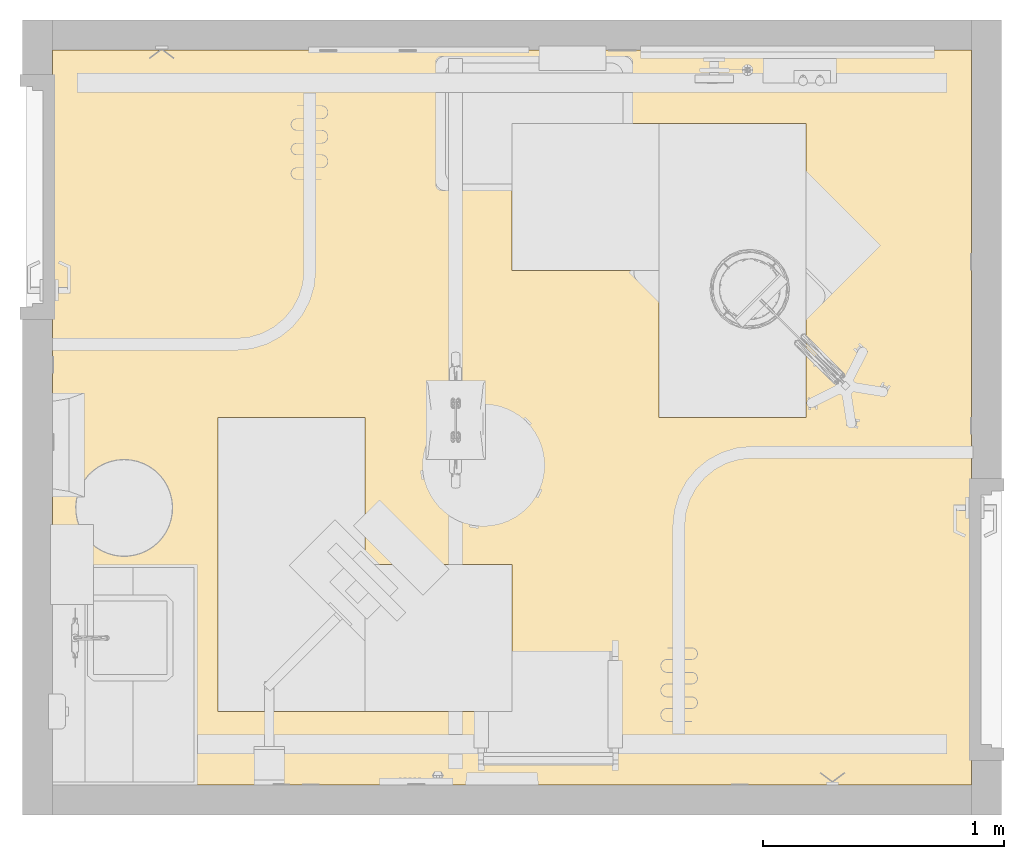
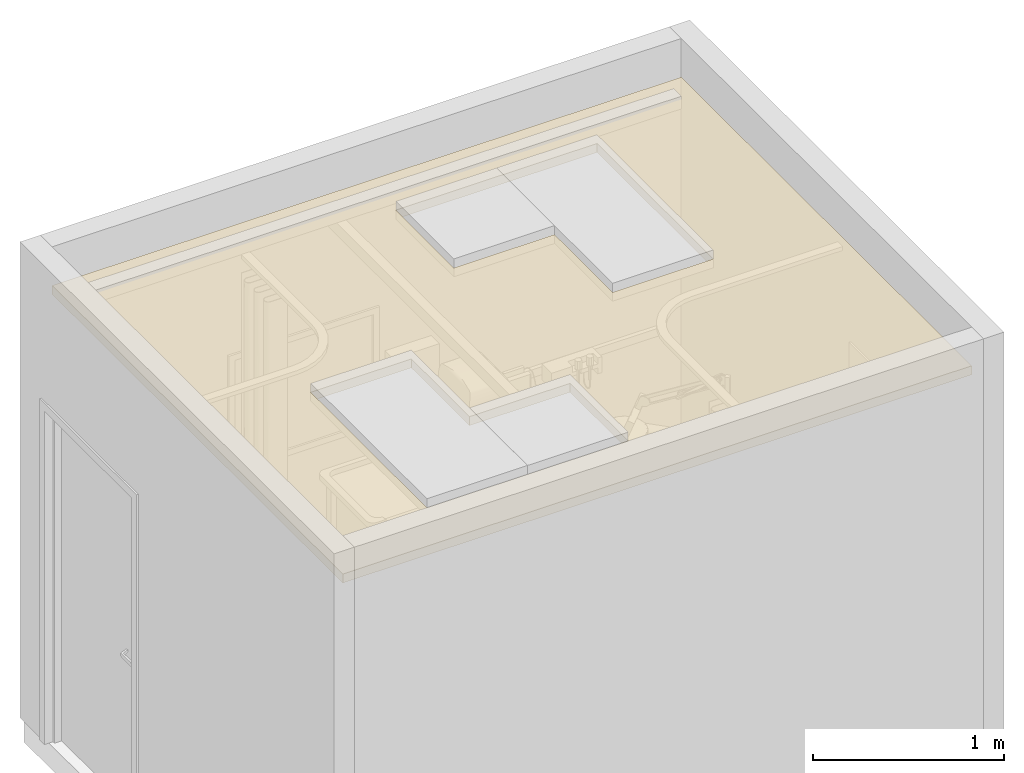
# One storey, part 4 of 8: 1 covering.
"""IFC2X3 building model written with IfcOpenShell, lengths in feet."""

from ifc_helpers import new_model, entity, si_unit, converted_unit, derived_unit, direction, frame, origin, place, context, subcontext, project, spatial, polyline, outline, extrude, material, layer, layer_set, layer_usage, element, save


model = new_model("IFC2X3")

# Units and contexts
model_context = context("Model", 3, precision=0.0001, world=origin(), true_north=direction((6.12303176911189e-17, 1.0)))
body_context = subcontext(model_context, "Body", "Model", "MODEL_VIEW")
ifc_project = project(units=[converted_unit("LENGTHUNIT", "FOOT", entity("IfcRatioMeasure", 0.3048), si_unit("LENGTHUNIT", "METRE"), dimensions=[1, 0, 0, 0, 0, 0, 0]), converted_unit("AREAUNIT", "SQUARE FOOT", entity("IfcRatioMeasure", 0.09290304), si_unit("AREAUNIT", "SQUARE_METRE"), dimensions=[2, 0, 0, 0, 0, 0, 0]), converted_unit("VOLUMEUNIT", "CUBIC FOOT", entity("IfcRatioMeasure", 0.028316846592), si_unit("VOLUMEUNIT", "CUBIC_METRE"), dimensions=[3, 0, 0, 0, 0, 0, 0]), converted_unit("PLANEANGLEUNIT", "DEGREE", entity("IfcRatioMeasure", 0.0174532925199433), si_unit("PLANEANGLEUNIT", "RADIAN"), dimensions=[0, 0, 0, 0, 0, 0, 0]), si_unit("MASSUNIT", "GRAM", prefix="KILO"), derived_unit("MASSDENSITYUNIT", [(si_unit("MASSUNIT", "GRAM", prefix="KILO"), 1), (si_unit("LENGTHUNIT", "METRE"), -3)]), si_unit("TIMEUNIT", "SECOND"), si_unit("FREQUENCYUNIT", "HERTZ"), si_unit("THERMODYNAMICTEMPERATUREUNIT", "DEGREE_CELSIUS"), derived_unit("THERMALTRANSMITTANCEUNIT", [(si_unit("MASSUNIT", "GRAM", prefix="KILO"), 1), (si_unit("THERMODYNAMICTEMPERATUREUNIT", "KELVIN"), -1), (si_unit("TIMEUNIT", "SECOND"), -3)]), derived_unit("VOLUMETRICFLOWRATEUNIT", [(si_unit("LENGTHUNIT", "METRE"), 3), (si_unit("TIMEUNIT", "SECOND"), -1)]), si_unit("ELECTRICCURRENTUNIT", "AMPERE"), si_unit("ELECTRICVOLTAGEUNIT", "VOLT"), si_unit("POWERUNIT", "WATT"), si_unit("FORCEUNIT", "NEWTON"), si_unit("ILLUMINANCEUNIT", "LUX"), si_unit("LUMINOUSFLUXUNIT", "LUMEN"), si_unit("LUMINOUSINTENSITYUNIT", "CANDELA"), derived_unit("USERDEFINED", [(si_unit("MASSUNIT", "GRAM", prefix="KILO"), -1), (si_unit("LENGTHUNIT", "METRE"), -2), (si_unit("TIMEUNIT", "SECOND"), 3), (si_unit("LUMINOUSFLUXUNIT", "LUMEN"), 1)]), derived_unit("LINEARVELOCITYUNIT", [(si_unit("LENGTHUNIT", "METRE"), 1), (si_unit("TIMEUNIT", "SECOND"), -1)]), si_unit("PRESSUREUNIT", "PASCAL"), derived_unit("USERDEFINED", [(si_unit("LENGTHUNIT", "METRE"), -2), (si_unit("MASSUNIT", "GRAM", prefix="KILO"), 1), (si_unit("TIMEUNIT", "SECOND"), -2)])], contexts=[model_context])

# Site, building, storey
site_placement = place(None, origin())
site = spatial("IfcSite", under=ifc_project, at=site_placement, Name="Default", CompositionType="ELEMENT")
building_placement = place(site_placement, origin())
building = spatial("IfcBuilding", under=site, at=building_placement, Name="OUTPATIENT / PACT CLINIC (Ch. 265)", CompositionType="ELEMENT")
storey_placement = place(building_placement, origin())
storey = spatial("IfcBuildingStorey", under=building, at=storey_placement, Name="DATUM", CompositionType="ELEMENT", Elevation=0.0)

# Covering
ifc_material_1 = material(Name="<Unnamed>")
ifc_layer_1 = layer(ifc_material_1, 0.135416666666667)
ifc_material_2 = material(Name="Acoustic Ceiling Tile 24 x 24")
ifc_layer_2 = layer(ifc_material_2, 0.0520833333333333)
ifc_layer_set = layer_set([ifc_layer_1, ifc_layer_2], Name="Compound Ceiling:2' x 2' ACT System")
ifc_layer_usage = layer_usage(ifc_layer_set, "AXIS3", "POSITIVE", 0.0)
covering_placement = place(storey_placement, origin())
element("IfcCovering", 1, at=covering_placement, inside=storey, material=ifc_layer_usage, Name="Compound Ceiling:2' x 2' ACT System", ObjectType="Compound Ceiling:2' x 2' ACT System", PredefinedType="CEILING", context=body_context, shape_type="SweptSolid", body=[
    extrude(outline(polyline([(-5.0, -6.25000000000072), (5.0, -6.25000000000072), (5.0, 6.25000000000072), (-5.0, 6.25000000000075), (-5.0, -6.25000000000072)]), holes=[polyline([(0.0, 2.0), (-2.0, 2.0), (-2.0, 0.0), (-4.0, 0.0), (-4.0, 4.0), (0.0, 4.0), (0.0, 2.0)]), polyline([(4.0, -4.0), (0.0, -4.0), (0.0, -2.0), (2.0, -2.0), (2.0, 0.0), (4.0, 0.0), (4.0, -4.0)])]), frame((-201.335929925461, -855.876806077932, 9.0), z_axis=(0.0, 0.0, 1.0), x_axis=(0.0, -1.0, 0.0)), (0.0, 0.0, 1.0), 0.1875),
])

save(model, "model.ifc")
